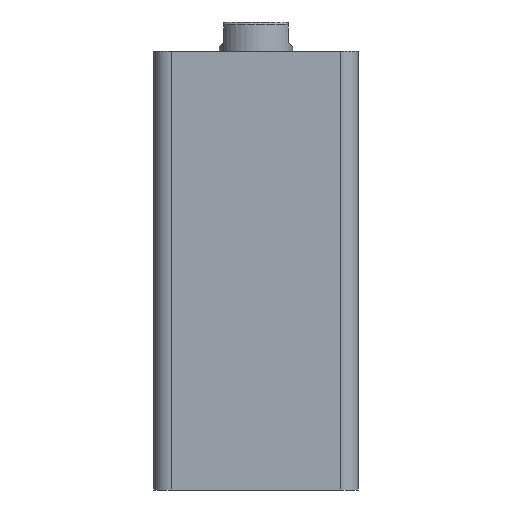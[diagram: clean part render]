
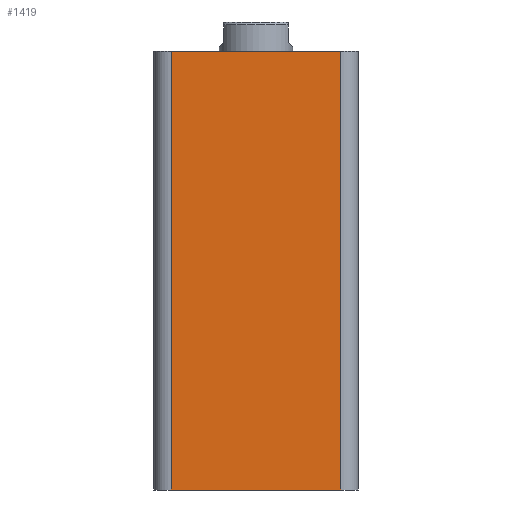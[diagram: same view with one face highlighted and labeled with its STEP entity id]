
A CAD part, front view. The second image highlights one B-rep face of the part: STEP entity #1419.
In plain terms, the highlighted planar face has unit normal (0, -1, 0).
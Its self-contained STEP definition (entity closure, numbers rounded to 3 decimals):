
#20 = VERTEX_POINT ( 'NONE', #1465 ) ;
#261 = ORIENTED_EDGE ( 'NONE', *, *, #1278, .T. ) ;
#288 = ORIENTED_EDGE ( 'NONE', *, *, #365, .F. ) ;
#319 = ORIENTED_EDGE ( 'NONE', *, *, #1270, .T. ) ;
#365 = EDGE_CURVE ( 'NONE', #996, #1010, #906, .T. ) ;
#559 = AXIS2_PLACEMENT_3D ( 'NONE', #1756, #1746, #1745 ) ;
#900 = VECTOR ( 'NONE', #2261, 1000. ) ;
#906 = LINE ( 'NONE', #2265, #900 ) ;
#955 = VECTOR ( 'NONE', #2312, 1000. ) ;
#958 = VECTOR ( 'NONE', #2339, 1000. ) ;
#959 = LINE ( 'NONE', #2313, #955 ) ;
#968 = VECTOR ( 'NONE', #2345, 1000. ) ;
#969 = LINE ( 'NONE', #2319, #958 ) ;
#971 = LINE ( 'NONE', #2347, #968 ) ;
#996 = VERTEX_POINT ( 'NONE', #2406 ) ;
#1006 = VERTEX_POINT ( 'NONE', #2397 ) ;
#1010 = VERTEX_POINT ( 'NONE', #2392 ) ;
#1036 = EDGE_LOOP ( 'NONE', ( #288, #319, #1160, #261 ) ) ;
#1160 = ORIENTED_EDGE ( 'NONE', *, *, #1277, .T. ) ;
#1270 = EDGE_CURVE ( 'NONE', #996, #20, #971, .T. ) ;
#1277 = EDGE_CURVE ( 'NONE', #20, #1006, #969, .T. ) ;
#1278 = EDGE_CURVE ( 'NONE', #1006, #1010, #959, .T. ) ;
#1419 = ADVANCED_FACE ( 'NONE', ( #1941 ), #1751, .F. ) ;
#1465 = CARTESIAN_POINT ( 'NONE',  ( -29., -35., 0. ) ) ;
#1745 = DIRECTION ( 'NONE',  ( 0., 0., 1. ) ) ;
#1746 = DIRECTION ( 'NONE',  ( 0., 1., 0. ) ) ;
#1751 = PLANE ( 'NONE',  #559 ) ;
#1756 = CARTESIAN_POINT ( 'NONE',  ( -35., -35., 150. ) ) ;
#1941 = FACE_OUTER_BOUND ( 'NONE', #1036, .T. ) ;
#2261 = DIRECTION ( 'NONE',  ( 1., 0., 0. ) ) ;
#2265 = CARTESIAN_POINT ( 'NONE',  ( -35., -35., 150. ) ) ;
#2312 = DIRECTION ( 'NONE',  ( 0., 0., 1. ) ) ;
#2313 = CARTESIAN_POINT ( 'NONE',  ( 29., -35., 150. ) ) ;
#2319 = CARTESIAN_POINT ( 'NONE',  ( -35., -35., 0. ) ) ;
#2339 = DIRECTION ( 'NONE',  ( 1., 0., 0. ) ) ;
#2345 = DIRECTION ( 'NONE',  ( 0., 0., -1. ) ) ;
#2347 = CARTESIAN_POINT ( 'NONE',  ( -29., -35., 150. ) ) ;
#2392 = CARTESIAN_POINT ( 'NONE',  ( 29., -35., 150. ) ) ;
#2397 = CARTESIAN_POINT ( 'NONE',  ( 29., -35., 0. ) ) ;
#2406 = CARTESIAN_POINT ( 'NONE',  ( -29., -35., 150. ) ) ;
